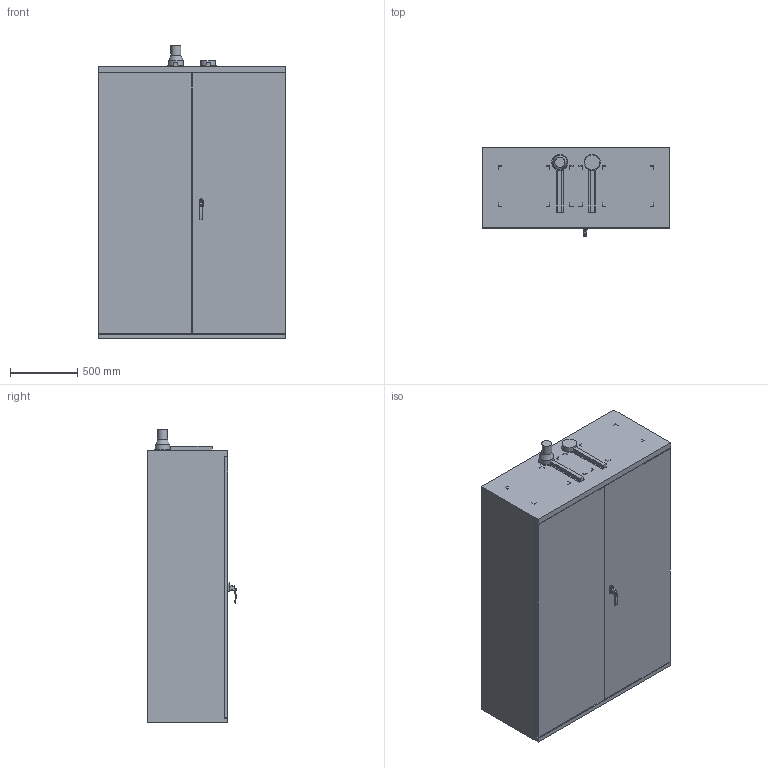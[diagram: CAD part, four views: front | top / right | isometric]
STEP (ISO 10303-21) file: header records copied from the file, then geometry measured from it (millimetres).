
FILE_DESCRIPTION(/* description */ ('Unknown'),/* implementation_level */ '2;1');
FILE_NAME(/* name */ '73-201460_VDK',/* time_stamp */ '2019-04-11T12:14:27+02:00',/* author */ ('Unknown'),/* organization */ ('Unknown'),/* preprocessor_version */ 'ST-DEVELOPER v16.7',/* originating_system */ 'DEX',/* authorisation */ $);
FILE_SCHEMA (('AUTOMOTIVE_DESIGN {1 0 10303 214 3 1 1}'));
Length unit declared in the file: millimetre
Products named in the file (1): 73-201460_VDK
Bounding box: 1395 x 657.2 x 2187 mm (x, y, z)
Volume: 1688821874.1 mm3; surface area: 10088699.8 mm2
Topology: 1 solids, 1 shells, 174 faces, 427 edges, 276 vertices
Faces by surface type: plane 137, cylinder 22, bspline 10, sphere 2, torus 2, cone 1
Full cylindrical faces by diameter (mm): 15 x1, 20 x1, 75 x1, 110 x2, 120 x2
Entity records: 6461 total; most frequent: CARTESIAN_POINT 1206, ORIENTED_EDGE 824, DIRECTION 775, EDGE_CURVE 412, LINE 345, VECTOR 345, VERTEX_POINT 273, AXIS2_PLACEMENT_3D 215
